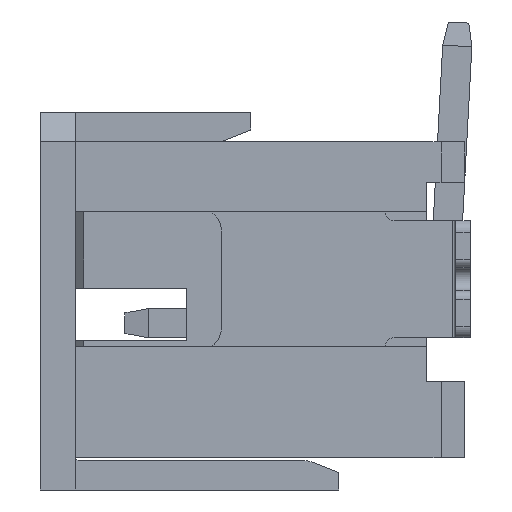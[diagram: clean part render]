
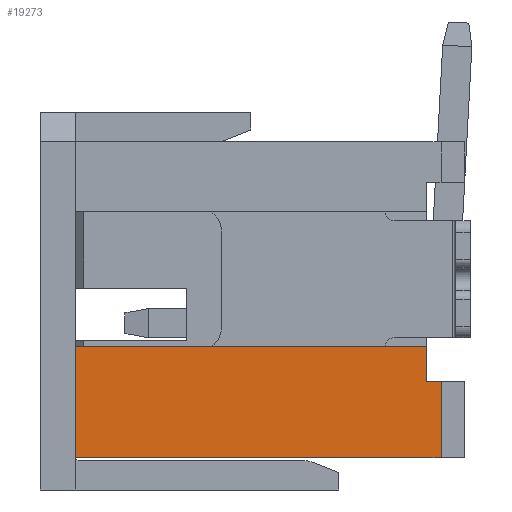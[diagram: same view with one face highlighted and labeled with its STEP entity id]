
A CAD part, left-side view. The second image highlights one B-rep face of the part: STEP entity #19273.
In plain terms, the highlighted planar face has unit normal (-1, 0, 0).
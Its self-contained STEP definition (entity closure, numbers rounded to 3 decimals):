
#1788=FACE_OUTER_BOUND('',#2851,.T.);
#2851=EDGE_LOOP('',(#16985,#16986,#16987,#16988,#16989,#16990));
#5083=LINE('',#30286,#7502);
#5099=LINE('',#30316,#7518);
#5108=LINE('',#30333,#7527);
#5199=LINE('',#30519,#7618);
#5202=LINE('',#30525,#7621);
#5203=LINE('',#30526,#7622);
#7502=VECTOR('',#24914,0.6);
#7518=VECTOR('',#24932,6.25);
#7527=VECTOR('',#24943,1.9);
#7618=VECTOR('',#25132,6.);
#7621=VECTOR('',#25137,1.3);
#7622=VECTOR('',#25138,0.25);
#9290=VERTEX_POINT('',#30283);
#9291=VERTEX_POINT('',#30285);
#9303=VERTEX_POINT('',#30313);
#9304=VERTEX_POINT('',#30315);
#9311=VERTEX_POINT('',#30332);
#9359=VERTEX_POINT('',#30524);
#11812=EDGE_CURVE('',#9291,#9290,#5083,.T.);
#11828=EDGE_CURVE('',#9304,#9303,#5099,.T.);
#11837=EDGE_CURVE('',#9311,#9304,#5108,.T.);
#11931=EDGE_CURVE('',#9290,#9311,#5199,.T.);
#11934=EDGE_CURVE('',#9303,#9359,#5202,.T.);
#11935=EDGE_CURVE('',#9359,#9291,#5203,.T.);
#16985=ORIENTED_EDGE('',*,*,#11812,.T.);
#16986=ORIENTED_EDGE('',*,*,#11931,.T.);
#16987=ORIENTED_EDGE('',*,*,#11837,.T.);
#16988=ORIENTED_EDGE('',*,*,#11828,.T.);
#16989=ORIENTED_EDGE('',*,*,#11934,.T.);
#16990=ORIENTED_EDGE('',*,*,#11935,.T.);
#18283=PLANE('',#20504);
#19273=ADVANCED_FACE('',(#1788),#18283,.F.);
#20504=AXIS2_PLACEMENT_3D('',#30523,#25135,#25136);
#24914=DIRECTION('',(0.,0.,1.));
#24932=DIRECTION('',(0.,-1.,0.));
#24943=DIRECTION('',(0.,0.,-1.));
#25132=DIRECTION('',(0.,1.,0.));
#25135=DIRECTION('center_axis',(1.,0.,0.));
#25136=DIRECTION('ref_axis',(0.,0.,1.));
#25137=DIRECTION('',(0.,0.,1.));
#25138=DIRECTION('',(0.,1.,0.));
#30283=CARTESIAN_POINT('',(-12.,-6.,-3.5));
#30285=CARTESIAN_POINT('',(-12.,-6.,-4.1));
#30286=CARTESIAN_POINT('',(-12.,-6.,-4.1));
#30313=CARTESIAN_POINT('',(-12.,-6.25,-5.4));
#30315=CARTESIAN_POINT('',(-12.,0.,-5.4));
#30316=CARTESIAN_POINT('',(-12.,0.,-5.4));
#30332=CARTESIAN_POINT('',(-12.,0.,-3.5));
#30333=CARTESIAN_POINT('',(-12.,0.,-3.5));
#30519=CARTESIAN_POINT('',(-12.,-6.,-3.5));
#30523=CARTESIAN_POINT('Origin',(-12.,-3.125,-4.45));
#30524=CARTESIAN_POINT('',(-12.,-6.25,-4.1));
#30525=CARTESIAN_POINT('',(-12.,-6.25,-5.4));
#30526=CARTESIAN_POINT('',(-12.,-6.25,-4.1));
